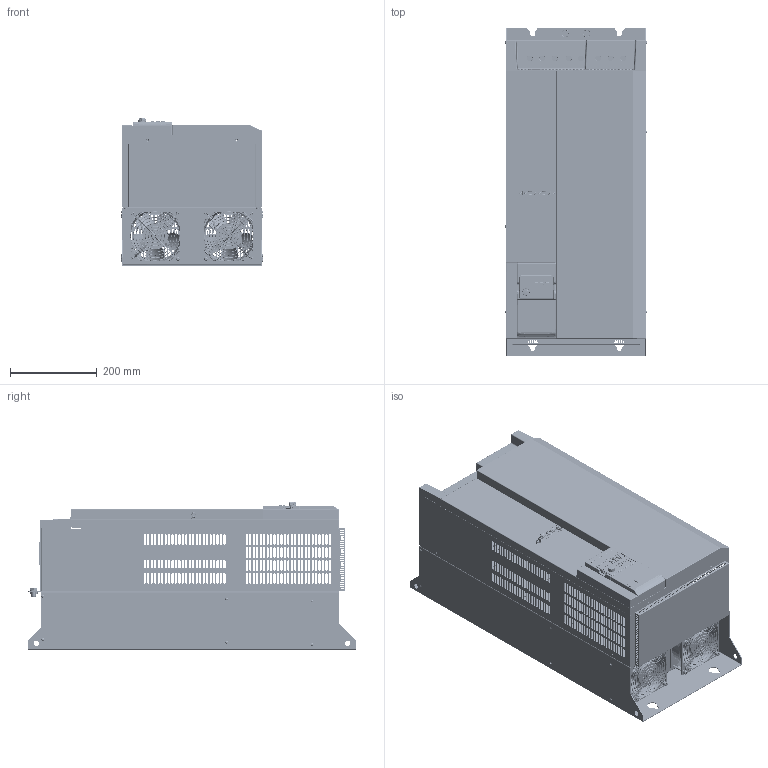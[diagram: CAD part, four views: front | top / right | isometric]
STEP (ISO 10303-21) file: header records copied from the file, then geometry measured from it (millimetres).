
FILE_DESCRIPTION((''),'2;1');
FILE_NAME('00_VFC5610_90','2018-05-30T',('jix2xi'),(''),'PRO/ENGINEER BY PARAMETRIC TECHNOLOGY CORPORATION, 2016100','PRO/ENGINEER BY PARAMETRIC TECHNOLOGY CORPORATION, 2016100','');
FILE_SCHEMA(('AUTOMOTIVE_DESIGN { 1 0 10303 214 1 1 1 1 }'));
Products named in the file (175): MANIFOLD_SOLID_BREP_5753; MANIFOLD_SOLID_BREP_5958; MANIFOLD_SOLID_BREP_6163; MANIFOLD_SOLID_BREP_6368; MANIFOLD_SOLID_BREP_6573; MANIFOLD_SOLID_BREP_6778; MANIFOLD_SOLID_BREP_6983; MANIFOLD_SOLID_BREP_7188; MANIFOLD_SOLID_BREP_7393; VFC5610_90KW_BASE_P1_17; MANIFOLD_SOLID_BREP_10340; MANIFOLD_SOLID_BREP_10597; MANIFOLD_SOLID_BREP_10854; MANIFOLD_SOLID_BREP_11111; MANIFOLD_SOLID_BREP_11368; MANIFOLD_SOLID_BREP_11625; MANIFOLD_SOLID_BREP_11882; MANIFOLD_SOLID_BREP_12139; MANIFOLD_SOLID_BREP_12396; MANIFOLD_SOLID_BREP_12653; MANIFOLD_SOLID_BREP_12910; MANIFOLD_SOLID_BREP_13167; MANIFOLD_SOLID_BREP_13424; MANIFOLD_SOLID_BREP_13681; MANIFOLD_SOLID_BREP_13938; MANIFOLD_SOLID_BREP_14195; MANIFOLD_SOLID_BREP_14452; VFC5610_90KW_BASE_P2_13; VFC5610_90KW_BASE_P3_14; A_3X8_GBT12615_90_14; VFC5610_90KW_BASE_P4_22; HOUING_PART_VFC5610_90KW_BASE_2; MANIFOLD_SOLID_BREP_54821; MANIFOLD_SOLID_BREP_55026; MANIFOLD_SOLID_BREP_55231; MANIFOLD_SOLID_BREP_55436; MANIFOLD_SOLID_BREP_55641; MANIFOLD_SOLID_BREP_55846; MANIFOLD_SOLID_BREP_56051; MANIFOLD_SOLID_BREP_56256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
Assembly tree (236 placements, depth 6):
  00_VFC5610_90
    00_VFC5610_90_102
      HOUING_PART_VFC5610_90KW_BASE_2
        VFC5610_90KW_BASE_P1_17
          MANIFOLD_SOLID_BREP_5753
          MANIFOLD_SOLID_BREP_5958
          MANIFOLD_SOLID_BREP_6163
          MANIFOLD_SOLID_BREP_6368
          MANIFOLD_SOLID_BREP_6573
          MANIFOLD_SOLID_BREP_6778
          MANIFOLD_SOLID_BREP_6983
          MANIFOLD_SOLID_BREP_7188
          MANIFOLD_SOLID_BREP_7393
        VFC5610_90KW_BASE_P2_13
          MANIFOLD_SOLID_BREP_10340
          MANIFOLD_SOLID_BREP_10597
          MANIFOLD_SOLID_BREP_10854
          MANIFOLD_SOLID_BREP_11111
          MANIFOLD_SOLID_BREP_11368
          MANIFOLD_SOLID_BREP_11625
          MANIFOLD_SOLID_BREP_11882
          MANIFOLD_SOLID_BREP_12139
          MANIFOLD_SOLID_BREP_12396
          MANIFOLD_SOLID_BREP_12653
          MANIFOLD_SOLID_BREP_12910
          MANIFOLD_SOLID_BREP_13167
          MANIFOLD_SOLID_BREP_13424
          MANIFOLD_SOLID_BREP_13681
          MANIFOLD_SOLID_BREP_13938
          MANIFOLD_SOLID_BREP_14195
          MANIFOLD_SOLID_BREP_14452
        VFC5610_90KW_BASE_P3_14  x2
        A_3X8_GBT12615_90_14  x12
        VFC5610_90KW_BASE_P4_22
      HOLDER_VFC5610_90KW_23
        MANIFOLD_SOLID_BREP_54821
        MANIFOLD_SOLID_BREP_55026
        MANIFOLD_SOLID_BREP_55231
        MANIFOLD_SOLID_BREP_55436
        MANIFOLD_SOLID_BREP_55641
        MANIFOLD_SOLID_BREP_55846
        MANIFOLD_SOLID_BREP_56051
        MANIFOLD_SOLID_BREP_56256
        MANIFOLD_SOLID_BREP_56461
        MANIFOLD_SOLID_BREP_56666
        MANIFOLD_SOLID_BREP_56871
        MANIFOLD_SOLID_BREP_57076
        MANIFOLD_SOLID_BREP_57281
        MANIFOLD_SOLID_BREP_57486
        MANIFOLD_SOLID_BREP_57691
        MANIFOLD_SOLID_BREP_57896
        MANIFOLD_SOLID_BREP_58101
        MANIFOLD_SOLID_BREP_58306
        MANIFOLD_SOLID_BREP_58511
        MANIFOLD_SOLID_BREP_58716
        MANIFOLD_SOLID_BREP_58921
        MANIFOLD_SOLID_BREP_59126
        MANIFOLD_SOLID_BREP_59331
        MANIFOLD_SOLID_BREP_59536
        MANIFOLD_SOLID_BREP_59741
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Bounding box: 327.8 x 760 x 341.24 mm (x, y, z)
Volume: 2585260.1 mm3; surface area: 3086948.9 mm2
Topology: 228 solids, 234 shells, 19428 faces, 52300 edges, 33474 vertices
Faces by surface type: plane 9226, cylinder 6904, bspline 1546, torus 903, cone 405, sphere 233, extrusion 211
Entity records: 646374 total; most frequent: CARTESIAN_POINT 168975, ORIENTED_EDGE 75960, DIRECTION 73440, EDGE_CURVE 37980, PRESENTATION_STYLE_ASSIGNMENT 33484, STYLED_ITEM 32758, CURVE_STYLE 31988, AXIS2_PLACEMENT_3D 24520
